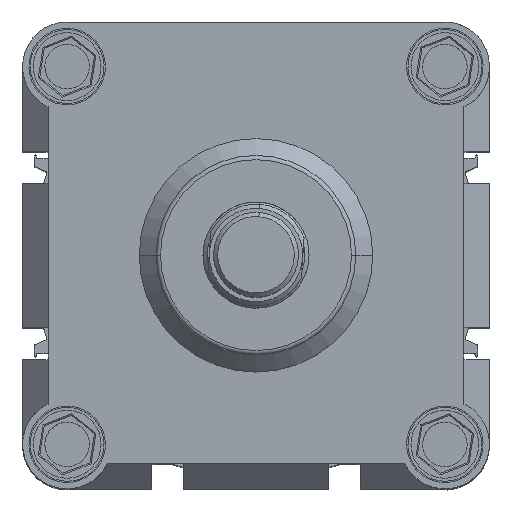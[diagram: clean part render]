
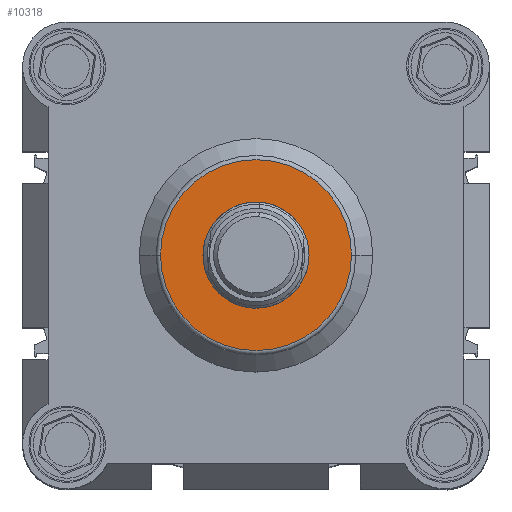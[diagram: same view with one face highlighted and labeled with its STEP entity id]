
A CAD part, top view. The second image highlights one B-rep face of the part: STEP entity #10318.
In plain terms, the highlighted planar face has unit normal (0, 0, 1).
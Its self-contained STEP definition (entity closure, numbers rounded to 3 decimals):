
#716 = FACE_OUTER_BOUND ( 'NONE', #10027, .T. ) ;
#767 = CIRCLE ( 'NONE', #8815, 12.5 ) ;
#993 = DIRECTION ( 'NONE',  ( 1., 0., 0. ) ) ;
#1151 = CARTESIAN_POINT ( 'NONE',  ( 77.5, 55., 80. ) ) ;
#1494 = EDGE_LOOP ( 'NONE', ( #10605, #9311 ) ) ;
#1594 = DIRECTION ( 'NONE',  ( 1., 0., 0. ) ) ;
#1733 = DIRECTION ( 'NONE',  ( 0., 0., 1. ) ) ;
#1825 = DIRECTION ( 'NONE',  ( 0., 0., 1. ) ) ;
#2576 = ORIENTED_EDGE ( 'NONE', *, *, #19632, .T. ) ;
#3041 = CARTESIAN_POINT ( 'NONE',  ( 67.5, 55., 80. ) ) ;
#3093 = CIRCLE ( 'NONE', #9094, 22.5 ) ;
#4244 = DIRECTION ( 'NONE',  ( 0., 0., 1. ) ) ;
#4499 = DIRECTION ( 'NONE',  ( 1., 0., 0. ) ) ;
#4645 = DIRECTION ( 'NONE',  ( 0., 0., 1. ) ) ;
#5159 = FACE_BOUND ( 'NONE', #1494, .T. ) ;
#5484 = DIRECTION ( 'NONE',  ( 0., 0., 1. ) ) ;
#6710 = VERTEX_POINT ( 'NONE', #13364 ) ;
#7326 = EDGE_CURVE ( 'NONE', #17190, #10060, #3093, .T. ) ;
#7756 = AXIS2_PLACEMENT_3D ( 'NONE', #19600, #5484, #21676 ) ;
#8335 = EDGE_CURVE ( 'NONE', #6710, #13437, #12910, .T. ) ;
#8815 = AXIS2_PLACEMENT_3D ( 'NONE', #20629, #4244, #4499 ) ;
#9094 = AXIS2_PLACEMENT_3D ( 'NONE', #10628, #1733, #17702 ) ;
#9311 = ORIENTED_EDGE ( 'NONE', *, *, #8335, .F. ) ;
#10027 = EDGE_LOOP ( 'NONE', ( #2576, #15881 ) ) ;
#10060 = VERTEX_POINT ( 'NONE', #1151 ) ;
#10318 = ADVANCED_FACE ( 'NONE', ( #5159, #716 ), #14280, .T. ) ;
#10605 = ORIENTED_EDGE ( 'NONE', *, *, #23157, .F. ) ;
#10628 = CARTESIAN_POINT ( 'NONE',  ( 55., 55., 80. ) ) ;
#11701 = CARTESIAN_POINT ( 'NONE',  ( 55., 55., 80. ) ) ;
#12910 = CIRCLE ( 'NONE', #13493, 12.5 ) ;
#13364 = CARTESIAN_POINT ( 'NONE',  ( 42.5, 55., 80. ) ) ;
#13437 = VERTEX_POINT ( 'NONE', #3041 ) ;
#13493 = AXIS2_PLACEMENT_3D ( 'NONE', #11701, #4645, #993 ) ;
#14280 = PLANE ( 'NONE',  #7756 ) ;
#14482 = CIRCLE ( 'NONE', #14888, 22.5 ) ;
#14888 = AXIS2_PLACEMENT_3D ( 'NONE', #17877, #1825, #1594 ) ;
#15189 = CARTESIAN_POINT ( 'NONE',  ( 32.5, 55., 80. ) ) ;
#15881 = ORIENTED_EDGE ( 'NONE', *, *, #7326, .T. ) ;
#17190 = VERTEX_POINT ( 'NONE', #15189 ) ;
#17702 = DIRECTION ( 'NONE',  ( 1., 0., 0. ) ) ;
#17877 = CARTESIAN_POINT ( 'NONE',  ( 55., 55., 80. ) ) ;
#19600 = CARTESIAN_POINT ( 'NONE',  ( 55., 55., 80. ) ) ;
#19632 = EDGE_CURVE ( 'NONE', #10060, #17190, #14482, .T. ) ;
#20629 = CARTESIAN_POINT ( 'NONE',  ( 55., 55., 80. ) ) ;
#21676 = DIRECTION ( 'NONE',  ( 1., 0., 0. ) ) ;
#23157 = EDGE_CURVE ( 'NONE', #13437, #6710, #767, .T. ) ;
